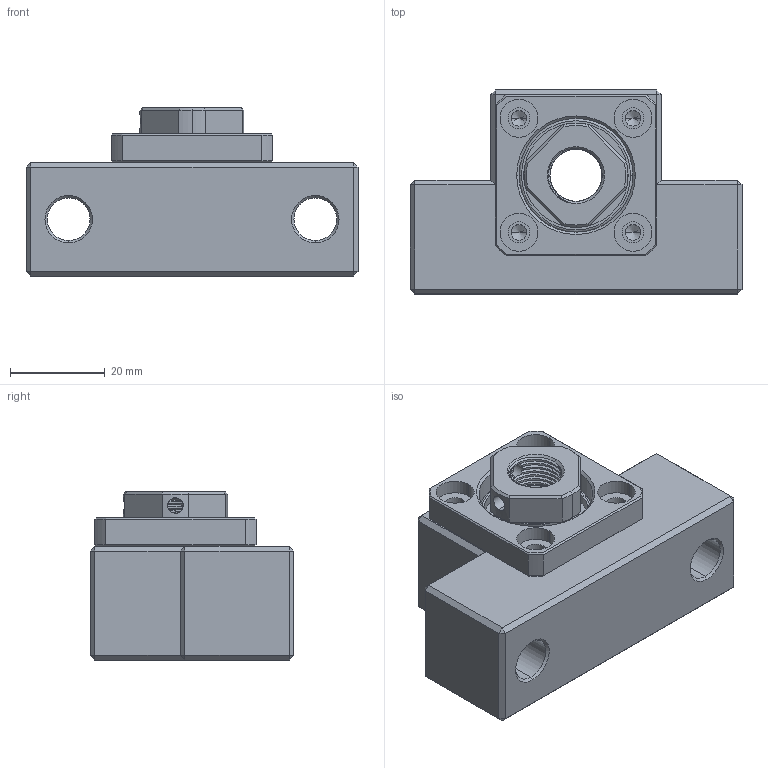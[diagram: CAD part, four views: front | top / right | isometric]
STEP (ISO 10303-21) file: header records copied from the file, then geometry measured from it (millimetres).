
FILE_DESCRIPTION (( 'STEP AP203' ), '1' );
FILE_NAME ('EK12²Õ¦X.STEP', '2010-07-02T01:14:14', ( '' ), ( '' ), 'SwSTEP 2.0', 'SolidWorks 2008', '' );
FILE_SCHEMA (( 'CONFIG_CONTROL_DESIGN' ));
Length unit declared in the file: millimetre
Products named in the file (1): EK12組合
Bounding box: 70 x 43 x 35.5 mm (x, y, z)
Volume: 51329 mm3; surface area: 27056.9 mm2
Topology: 35 solids, 35 shells, 437 faces, 1019 edges, 609 vertices
Faces by surface type: cylinder 115, plane 99, torus 90, cone 68, sphere 48, bspline 17
Entity records: 19722 total; most frequent: CARTESIAN_POINT 10428, DIRECTION 2072, ORIENTED_EDGE 1782, AXIS2_PLACEMENT_3D 894, EDGE_CURVE 891, VERTEX_POINT 537, EDGE_LOOP 488, CIRCLE 473
